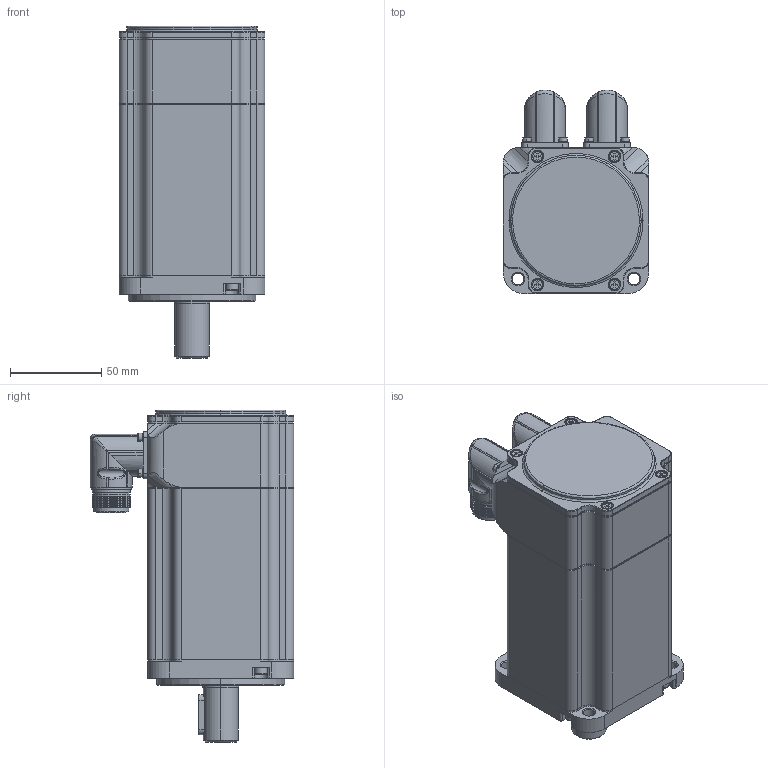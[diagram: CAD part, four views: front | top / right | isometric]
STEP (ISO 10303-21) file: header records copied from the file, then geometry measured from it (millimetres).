
FILE_DESCRIPTION (( 'STEP AP203' ), '1' );
FILE_NAME ('SMH80S-0075-30AAK-3LKN.STEP', '2014-08-29T09:06:35', ( '微软用户' ), ( '微软中国' ), 'SwSTEP 2.0', 'SolidWorks 2008', '' );
FILE_SCHEMA (( 'CONFIG_CONTROL_DESIGN' ));
Length unit declared in the file: millimetre
Products named in the file (1): SMH80S-0075-30AAK-3LKN
Bounding box: 80 x 111.5 x 182 mm (x, y, z)
Surface area: 82050.5 mm2 (no closed solid volume)
Topology: 0 solids, 74 shells, 939 faces, 2743 edges, 1848 vertices
Faces by surface type: cylinder 465, plane 331, bspline 103, cone 40
Entity records: 35725 total; most frequent: CARTESIAN_POINT 11265, DIRECTION 5300, ORIENTED_EDGE 4695, EDGE_CURVE 2683, AXIS2_PLACEMENT_3D 2007, VERTEX_POINT 1848, VECTOR 1286, LINE 1286
